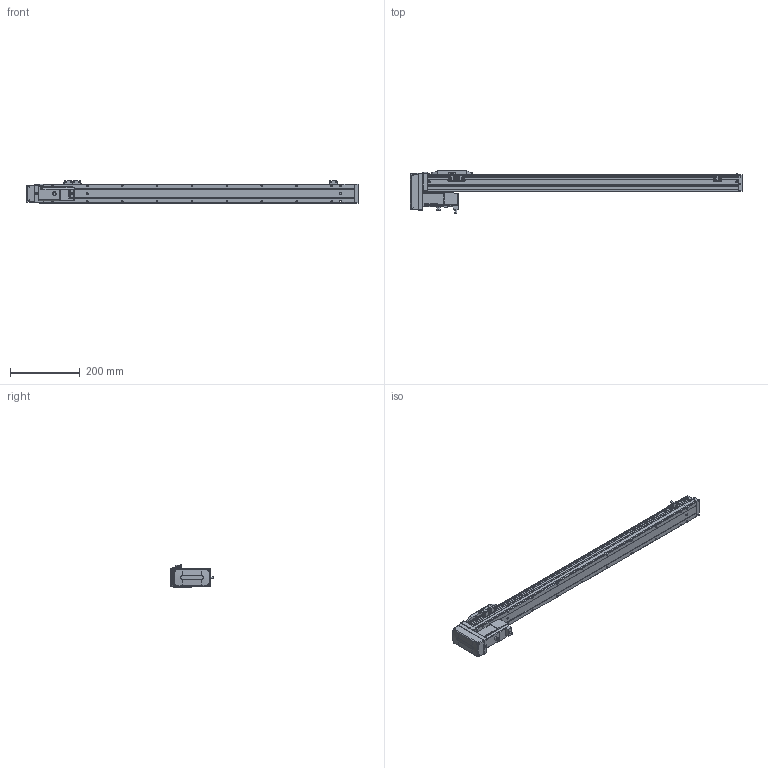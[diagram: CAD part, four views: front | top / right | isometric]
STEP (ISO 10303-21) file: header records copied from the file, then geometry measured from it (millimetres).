
FILE_DESCRIPTION (( 'STEP AP203' ), '1' );
FILE_NAME ('CTH5-L10-S750-BM-C10(¼ò).STEP', '2023-02-04T02:20:07', ( '' ), ( '' ), 'SwSTEP 2.0', 'SolidWorks 2018', '' );
FILE_SCHEMA (( 'CONFIG_CONTROL_DESIGN' ));
Length unit declared in the file: millimetre
Products named in the file (22): 内六角圆柱头螺钉M3-2; 100W萇儂; 嫖萇羲壽郪磁1; PM-Y45; CTH5賑怢; 葩璃 蚾饜极13^CTH8-L10-S50-BM-C40(潠)1; CTH5耜晚蹟隊; CTH100W假蚾啣; CTH5耜蚾欶; 葩璃 蚾饜极16^CTH5-L10-S750-BM-C10(潠); CTH5耜蚾蟀諉啣(潠); CTH5ヶ耜啣(潠); CTH5-L10-S750-BM-C10(潠); CTH5綴耜啣; hex nuts, style 1-grades ab gb_GB_FASTENER_NUT_SNAB1 M3-N; CTH5耜晚蹟隊-1; CTH嫖萇羲壽假蚾啣; CTH5覜茼え; CTH5菁釱-L890; CTH5-BL-T10_body5; M3｡｣; T10-p1
Assembly tree (37 placements, depth 4):
  CTH5-L10-S750-BM-C10(潠)
    CTH5綴耜啣
    CTH5賑怢
    CTH5ヶ耜啣(潠)
    CTH5菁釱-L890
    CTH5耜晚蹟隊  x2
    嫖萇羲壽郪磁1  x2
      CTH嫖萇羲壽假蚾啣
      PM-Y45
      M3｡｣
      内六角圆柱头螺钉M3-2
      hex nuts, style 1-grades ab gb_GB_FASTENER_NUT_SNAB1 M3-N
    CTH5覜茼え
    葩璃 蚾饜极13^CTH8-L10-S50-BM-C40(潠)1
      CTH嫖萇羲壽假蚾啣
      PM-Y45
      内六角圆柱头螺钉M3-2  x2
      M3｡｣  x2
      hex nuts, style 1-grades ab gb_GB_FASTENER_NUT_SNAB1 M3-N  x2
    CTH5耜晚蹟隊-1  x4
    葩璃 蚾饜极16^CTH5-L10-S750-BM-C10(潠)
      CTH5耜蚾蟀諉啣(潠)
      CTH5耜蚾欶
        CTH5-BL-T10_body5
      100W萇儂
        T10-p1
      CTH100W假蚾啣
Bounding box: 950 x 122.21 x 63.3 mm (x, y, z)
Volume: 2281649.5 mm3; surface area: 314902.6 mm2
Topology: 39 solids, 39 shells, 1643 faces, 4135 edges, 2664 vertices
Faces by surface type: plane 890, cylinder 480, cone 215, torus 40, bspline 18
Entity records: 38677 total; most frequent: CARTESIAN_POINT 7168, DIRECTION 6139, ORIENTED_EDGE 5894, EDGE_CURVE 2947, AXIS2_PLACEMENT_3D 2126, VERTEX_POINT 1892, LINE 1887, VECTOR 1887
